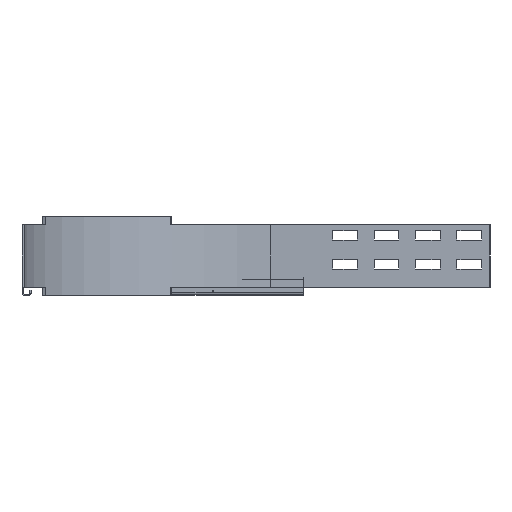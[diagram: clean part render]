
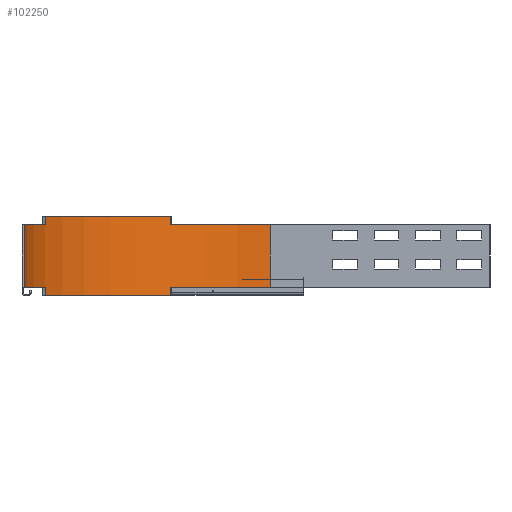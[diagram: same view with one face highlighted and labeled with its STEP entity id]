
A CAD part, left-side view. The second image highlights one B-rep face of the part: STEP entity #102250.
In plain terms, the highlighted cylindrical face has radius 297 mm (diameter 594 mm), a partial arc.
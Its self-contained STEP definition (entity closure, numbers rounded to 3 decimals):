
#79680=CARTESIAN_POINT('',(423.54,-135.435,-50.));
#79690=VERTEX_POINT('',#79680);
#79720=CARTESIAN_POINT('',(247.84,-374.89,-50.));
#79730=DIRECTION('',(0.,0.,1.));
#79740=DIRECTION('',(0.592,0.806,0.));
#79750=AXIS2_PLACEMENT_3D('',#79720,#79730,#79740);
#79760=CIRCLE('',#79750,297.);
#79770=CARTESIAN_POINT('',(214.908,-79.722,-50.));
#79780=VERTEX_POINT('',#79770);
#79790=EDGE_CURVE('',#79690,#79780,#79760,.T.);
#81760=CARTESIAN_POINT('',(504.924,-226.173,-60.));
#81770=VERTEX_POINT('',#81760);
#81820=CARTESIAN_POINT('',(247.84,-374.89,-60.));
#81830=DIRECTION('',(0.,0.,-1.));
#81840=DIRECTION('',(0.592,0.806,0.));
#81850=AXIS2_PLACEMENT_3D('',#81820,#81830,#81840);
#81860=CIRCLE('',#81850,297.);
#81870=CARTESIAN_POINT('',(423.54,-135.435,-60.));
#81880=VERTEX_POINT('',#81870);
#81890=EDGE_CURVE('',#81880,#81770,#81860,.T.);
#82300=CARTESIAN_POINT('',(247.84,-374.89,-145.));
#82310=DIRECTION('',(0.,0.,1.));
#82320=DIRECTION('',(0.592,0.806,0.));
#82330=AXIS2_PLACEMENT_3D('',#82300,#82310,#82320);
#82340=CIRCLE('',#82330,297.);
#82350=CARTESIAN_POINT('',(423.54,-135.435,-145.));
#82360=VERTEX_POINT('',#82350);
#82370=CARTESIAN_POINT('',(214.908,-79.722,-145.));
#82380=VERTEX_POINT('',#82370);
#82390=EDGE_CURVE('',#82360,#82380,#82340,.T.);
#82940=CARTESIAN_POINT('',(99.123,-117.806,-135.));
#82950=VERTEX_POINT('',#82940);
#82980=CARTESIAN_POINT('',(247.84,-374.89,-135.));
#82990=DIRECTION('',(0.,0.,1.));
#83000=DIRECTION('',(-0.111,0.994,0.));
#83010=AXIS2_PLACEMENT_3D('',#82980,#82990,#83000);
#83020=CIRCLE('',#83010,297.);
#83030=CARTESIAN_POINT('',(214.908,-79.722,-135.));
#83040=VERTEX_POINT('',#83030);
#83050=EDGE_CURVE('',#83040,#82950,#83020,.T.);
#89970=CARTESIAN_POINT('',(99.123,-117.806,-60.));
#89980=VERTEX_POINT('',#89970);
#90130=CARTESIAN_POINT('',(214.908,-79.722,-60.));
#90140=VERTEX_POINT('',#90130);
#90170=CARTESIAN_POINT('',(247.84,-374.89,-60.));
#90180=DIRECTION('',(0.,0.,-1.));
#90190=DIRECTION('',(-0.501,0.866,0.));
#90200=AXIS2_PLACEMENT_3D('',#90170,#90180,#90190);
#90210=CIRCLE('',#90200,297.);
#90220=EDGE_CURVE('',#89980,#90140,#90210,.T.);
#93000=CARTESIAN_POINT('',(504.924,-226.173,-135.));
#93010=VERTEX_POINT('',#93000);
#93040=CARTESIAN_POINT('',(504.924,-226.173,0.));
#93050=DIRECTION('',(0.,0.,1.));
#93060=VECTOR('',#93050,1.);
#93070=LINE('',#93040,#93060);
#93080=EDGE_CURVE('',#93010,#81770,#93070,.T.);
#99370=CARTESIAN_POINT('',(423.54,-135.435,-50.));
#99380=DIRECTION('',(0.,0.,-1.));
#99390=VECTOR('',#99380,1.);
#99400=LINE('',#99370,#99390);
#99410=EDGE_CURVE('',#79690,#81880,#99400,.T.);
#99540=CARTESIAN_POINT('',(214.908,-79.722,-135.));
#99550=DIRECTION('',(0.,0.,-1.));
#99560=VECTOR('',#99550,1.);
#99570=LINE('',#99540,#99560);
#99580=EDGE_CURVE('',#83040,#82380,#99570,.T.);
#99710=CARTESIAN_POINT('',(214.908,-79.722,-50.));
#99720=DIRECTION('',(0.,0.,-1.));
#99730=VECTOR('',#99720,1.);
#99740=LINE('',#99710,#99730);
#99750=EDGE_CURVE('',#79780,#90140,#99740,.T.);
#100970=CARTESIAN_POINT('',(99.123,-117.806,0.));
#100980=DIRECTION('',(0.,0.,-1.));
#100990=VECTOR('',#100980,1.);
#101000=LINE('',#100970,#100990);
#101010=EDGE_CURVE('',#89980,#82950,#101000,.T.);
#101930=CARTESIAN_POINT('',(247.84,-374.89,-60.));
#101940=DIRECTION('',(0.,0.,1.));
#101950=DIRECTION('',(1.,0.,0.));
#101960=AXIS2_PLACEMENT_3D('',#101930,#101940,#101950);
#101970=CYLINDRICAL_SURFACE('',#101960,297.);
#101980=ORIENTED_EDGE('',*,*,#83050,.F.);
#101990=ORIENTED_EDGE('',*,*,#101010,.T.);
#102000=ORIENTED_EDGE('',*,*,#90220,.F.);
#102010=ORIENTED_EDGE('',*,*,#99750,.T.);
#102020=ORIENTED_EDGE('',*,*,#79790,.T.);
#102030=ORIENTED_EDGE('',*,*,#99410,.F.);
#102040=ORIENTED_EDGE('',*,*,#81890,.F.);
#102050=ORIENTED_EDGE('',*,*,#93080,.T.);
#102060=CARTESIAN_POINT('',(247.84,-374.89,-135.));
#102070=DIRECTION('',(0.,0.,1.));
#102080=DIRECTION('',(0.866,0.501,0.));
#102090=AXIS2_PLACEMENT_3D('',#102060,#102070,#102080);
#102100=CIRCLE('',#102090,297.);
#102110=CARTESIAN_POINT('',(423.54,-135.435,-135.));
#102120=VERTEX_POINT('',#102110);
#102130=EDGE_CURVE('',#93010,#102120,#102100,.T.);
#102140=ORIENTED_EDGE('',*,*,#102130,.F.);
#102150=CARTESIAN_POINT('',(423.54,-135.435,-135.));
#102160=DIRECTION('',(0.,0.,-1.));
#102170=VECTOR('',#102160,1.);
#102180=LINE('',#102150,#102170);
#102190=EDGE_CURVE('',#102120,#82360,#102180,.T.);
#102200=ORIENTED_EDGE('',*,*,#102190,.F.);
#102210=ORIENTED_EDGE('',*,*,#82390,.F.);
#102220=ORIENTED_EDGE('',*,*,#99580,.T.);
#102230=EDGE_LOOP('',(#102220,#102210,#102200,#102140,#102050,#102040,
#102030,#102020,#102010,#102000,#101990,#101980));
#102240=FACE_OUTER_BOUND('',#102230,.T.);
#102250=ADVANCED_FACE('',(#102240),#101970,.F.);
